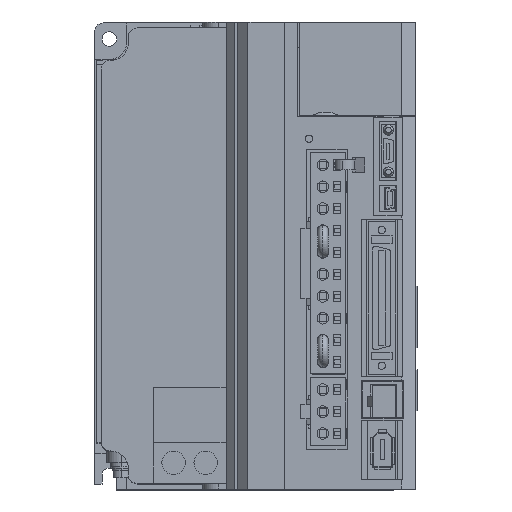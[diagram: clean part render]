
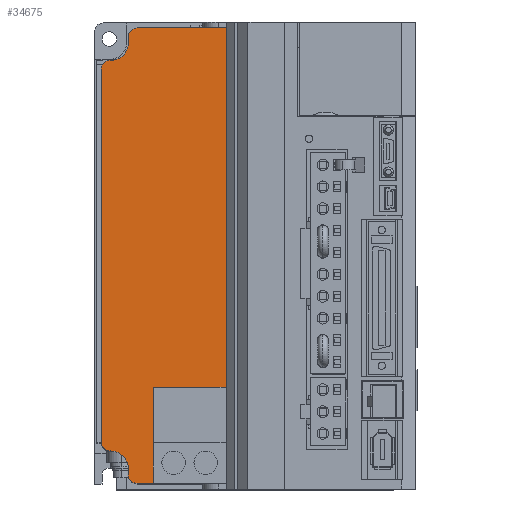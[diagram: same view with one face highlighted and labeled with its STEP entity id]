
A CAD part, top view. The second image highlights one B-rep face of the part: STEP entity #34675.
In plain terms, the highlighted planar face has unit normal (0, 0, 1).
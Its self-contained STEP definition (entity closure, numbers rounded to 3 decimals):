
#34544 = VERTEX_POINT ( 'NONE', #52995 ) ;
#34584 = ORIENTED_EDGE ( 'NONE', *, *, #34586, .F. ) ;
#34586 = EDGE_CURVE ( 'NONE', #34587, #34589, #53074, .T. ) ;
#34587 = VERTEX_POINT ( 'NONE', #53069 ) ;
#34589 = VERTEX_POINT ( 'NONE', #53064 ) ;
#34591 = ORIENTED_EDGE ( 'NONE', *, *, #34593, .F. ) ;
#34593 = EDGE_CURVE ( 'NONE', #34544, #34587, #53062, .T. ) ;
#34596 = ORIENTED_EDGE ( 'NONE', *, *, #34673, .F. ) ;
#34599 = ORIENTED_EDGE ( 'NONE', *, *, #34603, .T. ) ;
#34603 = EDGE_CURVE ( 'NONE', #34633, #34604, #53109, .T. ) ;
#34604 = VERTEX_POINT ( 'NONE', #53105 ) ;
#34633 = VERTEX_POINT ( 'NONE', #53119 ) ;
#34635 = EDGE_CURVE ( 'NONE', #34754, #34718, #53118, .T. ) ;
#34640 = ORIENTED_EDGE ( 'NONE', *, *, #34642, .F. ) ;
#34642 = EDGE_CURVE ( 'NONE', #34644, #34604, #53167, .T. ) ;
#34644 = VERTEX_POINT ( 'NONE', #53161 ) ;
#34646 = ORIENTED_EDGE ( 'NONE', *, *, #34648, .F. ) ;
#34648 = EDGE_CURVE ( 'NONE', #34650, #34644, #53156, .T. ) ;
#34650 = VERTEX_POINT ( 'NONE', #53151 ) ;
#34652 = ORIENTED_EDGE ( 'NONE', *, *, #34654, .F. ) ;
#34654 = EDGE_CURVE ( 'NONE', #34656, #34650, #53146, .T. ) ;
#34656 = VERTEX_POINT ( 'NONE', #53204 ) ;
#34658 = ORIENTED_EDGE ( 'NONE', *, *, #34660, .F. ) ;
#34660 = EDGE_CURVE ( 'NONE', #34662, #34656, #53199, .T. ) ;
#34662 = VERTEX_POINT ( 'NONE', #53194 ) ;
#34664 = ORIENTED_EDGE ( 'NONE', *, *, #34666, .F. ) ;
#34666 = EDGE_CURVE ( 'NONE', #34668, #34662, #53189, .T. ) ;
#34668 = VERTEX_POINT ( 'NONE', #53183 ) ;
#34673 = EDGE_CURVE ( 'NONE', #34633, #34544, #53173, .T. ) ;
#34675 = ADVANCED_FACE ( 'NONE', ( #53236 ), #53235, .F. ) ;
#34676 = EDGE_LOOP ( 'NONE', ( #34584, #34591, #34596, #34599, #34640, #34646, #34652, #34658, #34664, #34696, #34702, #34708, #34714, #34720, #34755, #34761 ) ) ;
#34678 = EDGE_CURVE ( 'NONE', #34589, #34759, #53225, .T. ) ;
#34696 = ORIENTED_EDGE ( 'NONE', *, *, #34698, .T. ) ;
#34698 = EDGE_CURVE ( 'NONE', #34668, #34700, #53266, .T. ) ;
#34700 = VERTEX_POINT ( 'NONE', #53253 ) ;
#34702 = ORIENTED_EDGE ( 'NONE', *, *, #34704, .F. ) ;
#34704 = EDGE_CURVE ( 'NONE', #34706, #34700, #53247, .T. ) ;
#34706 = VERTEX_POINT ( 'NONE', #53241 ) ;
#34708 = ORIENTED_EDGE ( 'NONE', *, *, #34710, .F. ) ;
#34710 = EDGE_CURVE ( 'NONE', #34712, #34706, #53312, .T. ) ;
#34712 = VERTEX_POINT ( 'NONE', #53304 ) ;
#34714 = ORIENTED_EDGE ( 'NONE', *, *, #34716, .F. ) ;
#34716 = EDGE_CURVE ( 'NONE', #34718, #34712, #53302, .T. ) ;
#34718 = VERTEX_POINT ( 'NONE', #53289 ) ;
#34720 = ORIENTED_EDGE ( 'NONE', *, *, #34635, .F. ) ;
#34754 = VERTEX_POINT ( 'NONE', #53362 ) ;
#34755 = ORIENTED_EDGE ( 'NONE', *, *, #34757, .F. ) ;
#34757 = EDGE_CURVE ( 'NONE', #34759, #34754, #53361, .T. ) ;
#34759 = VERTEX_POINT ( 'NONE', #53352 ) ;
#34761 = ORIENTED_EDGE ( 'NONE', *, *, #34678, .F. ) ;
#52995 = CARTESIAN_POINT ( 'NONE',  ( 40., -119.5, 151. ) ) ;
#53059 = DIRECTION ( 'NONE',  ( -1., 0., 0. ) ) ;
#53060 = VECTOR ( 'NONE', #53059, 1000. ) ;
#53061 = CARTESIAN_POINT ( 'NONE',  ( 15., -119.5, 151. ) ) ;
#53062 = LINE ( 'NONE', #53061, #53060 ) ;
#53064 = CARTESIAN_POINT ( 'NONE',  ( 15., -152.5, 151. ) ) ;
#53069 = CARTESIAN_POINT ( 'NONE',  ( 15., -119.5, 151. ) ) ;
#53070 = DIRECTION ( 'NONE',  ( 0., -1., 0. ) ) ;
#53071 = VECTOR ( 'NONE', #53070, 1000. ) ;
#53073 = CARTESIAN_POINT ( 'NONE',  ( 15., -152.5, 151. ) ) ;
#53074 = LINE ( 'NONE', #53073, #53071 ) ;
#53105 = CARTESIAN_POINT ( 'NONE',  ( 9.5, 3.5, 151. ) ) ;
#53106 = DIRECTION ( 'NONE',  ( -1., 0., 0. ) ) ;
#53107 = VECTOR ( 'NONE', #53106, 1000. ) ;
#53108 = CARTESIAN_POINT ( 'NONE',  ( 40., 3.5, 151. ) ) ;
#53109 = LINE ( 'NONE', #53108, #53107 ) ;
#53115 = DIRECTION ( 'NONE',  ( 0., 1., 0. ) ) ;
#53116 = VECTOR ( 'NONE', #53115, 1000. ) ;
#53117 = CARTESIAN_POINT ( 'NONE',  ( 6.5, -149.5, 151. ) ) ;
#53118 = LINE ( 'NONE', #53117, #53116 ) ;
#53119 = CARTESIAN_POINT ( 'NONE',  ( 40., 3.5, 151. ) ) ;
#53143 = DIRECTION ( 'NONE',  ( 0., 0., 1. ) ) ;
#53144 = CARTESIAN_POINT ( 'NONE',  ( 0.5, -1.6, 151. ) ) ;
#53145 = AXIS2_PLACEMENT_3D ( 'NONE', #53144, #53143, #53206 ) ;
#53146 = CIRCLE ( 'NONE', #53145, 6. ) ;
#53151 = CARTESIAN_POINT ( 'NONE',  ( 6.5, -1.6, 151. ) ) ;
#53153 = DIRECTION ( 'NONE',  ( 0., 1., 0. ) ) ;
#53154 = VECTOR ( 'NONE', #53153, 1000. ) ;
#53155 = CARTESIAN_POINT ( 'NONE',  ( 6.5, 0.5, 151. ) ) ;
#53156 = LINE ( 'NONE', #53155, #53154 ) ;
#53161 = CARTESIAN_POINT ( 'NONE',  ( 6.5, 0.5, 151. ) ) ;
#53163 = DIRECTION ( 'NONE',  ( -1., 0., 0. ) ) ;
#53164 = DIRECTION ( 'NONE',  ( 0., 0., -1. ) ) ;
#53165 = CARTESIAN_POINT ( 'NONE',  ( 9.5, 0.5, 151. ) ) ;
#53166 = AXIS2_PLACEMENT_3D ( 'NONE', #53165, #53164, #53163 ) ;
#53167 = CIRCLE ( 'NONE', #53166, 3. ) ;
#53173 = LINE ( 'NONE', #53239, #53238 ) ;
#53183 = CARTESIAN_POINT ( 'NONE',  ( -2.7, -10.6, 151. ) ) ;
#53185 = DIRECTION ( 'NONE',  ( 1., 0., 0. ) ) ;
#53186 = DIRECTION ( 'NONE',  ( 0., 0., -1. ) ) ;
#53187 = CARTESIAN_POINT ( 'NONE',  ( 0.3, -10.6, 151. ) ) ;
#53188 = AXIS2_PLACEMENT_3D ( 'NONE', #53187, #53186, #53185 ) ;
#53189 = CIRCLE ( 'NONE', #53188, 3. ) ;
#53194 = CARTESIAN_POINT ( 'NONE',  ( 0.3, -7.6, 151. ) ) ;
#53196 = DIRECTION ( 'NONE',  ( 1., 0., 0. ) ) ;
#53197 = VECTOR ( 'NONE', #53196, 1000. ) ;
#53198 = CARTESIAN_POINT ( 'NONE',  ( 0.3, -7.6, 151. ) ) ;
#53199 = LINE ( 'NONE', #53198, #53197 ) ;
#53204 = CARTESIAN_POINT ( 'NONE',  ( 0.5, -7.6, 151. ) ) ;
#53206 = DIRECTION ( 'NONE',  ( -1., 0., 0. ) ) ;
#53222 = DIRECTION ( 'NONE',  ( -1., 0., 0. ) ) ;
#53223 = VECTOR ( 'NONE', #53222, 1000. ) ;
#53224 = CARTESIAN_POINT ( 'NONE',  ( 40., -152.5, 151. ) ) ;
#53225 = LINE ( 'NONE', #53224, #53223 ) ;
#53231 = DIRECTION ( 'NONE',  ( -1., 0., 0. ) ) ;
#53232 = DIRECTION ( 'NONE',  ( 0., 0., -1. ) ) ;
#53233 = CARTESIAN_POINT ( 'NONE',  ( 40., 46.387, 151. ) ) ;
#53234 = AXIS2_PLACEMENT_3D ( 'NONE', #53233, #53232, #53231 ) ;
#53235 = PLANE ( 'NONE',  #53234 ) ;
#53236 = FACE_OUTER_BOUND ( 'NONE', #34676, .T. ) ;
#53237 = DIRECTION ( 'NONE',  ( 0., -1., 0. ) ) ;
#53238 = VECTOR ( 'NONE', #53237, 1000. ) ;
#53239 = CARTESIAN_POINT ( 'NONE',  ( 40., 46.387, 151. ) ) ;
#53241 = CARTESIAN_POINT ( 'NONE',  ( 0.3, -141.4, 151. ) ) ;
#53243 = DIRECTION ( 'NONE',  ( -1., 0., 0. ) ) ;
#53244 = DIRECTION ( 'NONE',  ( 0., 0., -1. ) ) ;
#53245 = CARTESIAN_POINT ( 'NONE',  ( 0.3, -138.4, 151. ) ) ;
#53246 = AXIS2_PLACEMENT_3D ( 'NONE', #53245, #53244, #53243 ) ;
#53247 = CIRCLE ( 'NONE', #53246, 3. ) ;
#53253 = CARTESIAN_POINT ( 'NONE',  ( -2.7, -138.4, 151. ) ) ;
#53259 = DIRECTION ( 'NONE',  ( 0., -1., 0. ) ) ;
#53260 = VECTOR ( 'NONE', #53259, 1000. ) ;
#53261 = CARTESIAN_POINT ( 'NONE',  ( -2.7, 46.387, 151. ) ) ;
#53266 = LINE ( 'NONE', #53261, #53260 ) ;
#53289 = CARTESIAN_POINT ( 'NONE',  ( 6.5, -147.4, 151. ) ) ;
#53298 = DIRECTION ( 'NONE',  ( 1., 0., 0. ) ) ;
#53299 = DIRECTION ( 'NONE',  ( 0., 0., 1. ) ) ;
#53300 = CARTESIAN_POINT ( 'NONE',  ( 0.5, -147.4, 151. ) ) ;
#53301 = AXIS2_PLACEMENT_3D ( 'NONE', #53300, #53299, #53298 ) ;
#53302 = CIRCLE ( 'NONE', #53301, 6. ) ;
#53304 = CARTESIAN_POINT ( 'NONE',  ( 0.5, -141.4, 151. ) ) ;
#53309 = DIRECTION ( 'NONE',  ( -1., 0., 0. ) ) ;
#53310 = VECTOR ( 'NONE', #53309, 1000. ) ;
#53311 = CARTESIAN_POINT ( 'NONE',  ( 0.3, -141.4, 151. ) ) ;
#53312 = LINE ( 'NONE', #53311, #53310 ) ;
#53352 = CARTESIAN_POINT ( 'NONE',  ( 9.5, -152.5, 151. ) ) ;
#53357 = DIRECTION ( 'NONE',  ( 1., 0., 0. ) ) ;
#53358 = DIRECTION ( 'NONE',  ( 0., 0., -1. ) ) ;
#53359 = CARTESIAN_POINT ( 'NONE',  ( 9.5, -149.5, 151. ) ) ;
#53360 = AXIS2_PLACEMENT_3D ( 'NONE', #53359, #53358, #53357 ) ;
#53361 = CIRCLE ( 'NONE', #53360, 3. ) ;
#53362 = CARTESIAN_POINT ( 'NONE',  ( 6.5, -149.5, 151. ) ) ;
